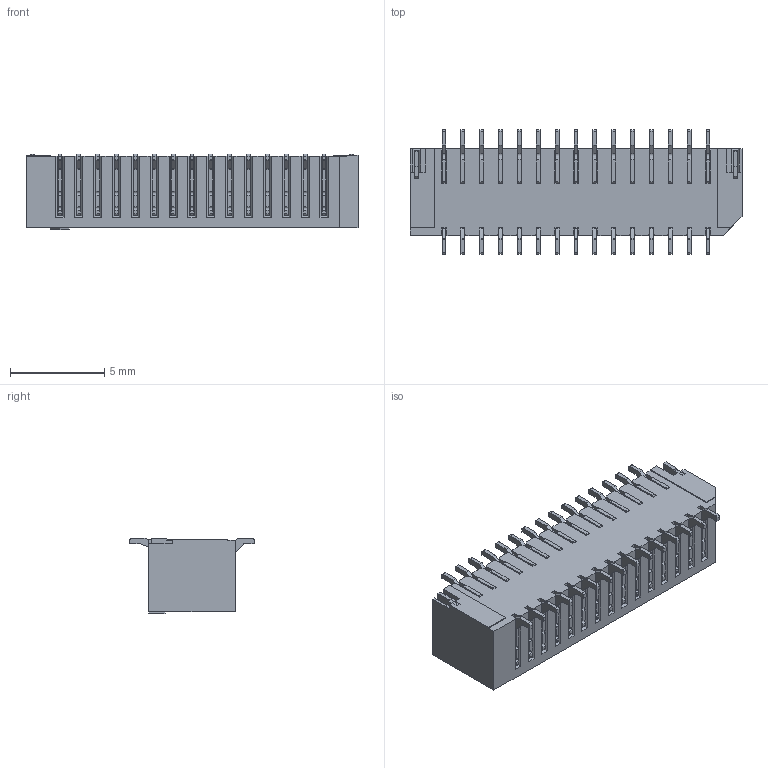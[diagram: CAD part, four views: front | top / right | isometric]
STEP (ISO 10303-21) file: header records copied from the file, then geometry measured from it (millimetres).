
FILE_DESCRIPTION((''),'2;1');
FILE_NAME('30','2009-09-25T',('snow'),(''),'PRO/ENGINEER BY PARAMETRIC TECHNOLOGY CORPORATION, 2007450','PRO/ENGINEER BY PARAMETRIC TECHNOLOGY CORPORATION, 2007450','');
FILE_SCHEMA(('CONFIG_CONTROL_DESIGN'));
Length unit declared in the file: millimetre
Products named in the file (1): 30
Bounding box: 17.6 x 6.6 x 4.01 mm (x, y, z)
Volume: 180.6 mm3; surface area: 889.4 mm2
Topology: 1 solids, 1 shells, 2017 faces, 6367 edges, 4158 vertices
Faces by surface type: plane 1514, cylinder 503
Entity records: 70239 total; most frequent: ORIENTED_EDGE 12734, CARTESIAN_POINT 12614, DIRECTION 11413, EDGE_CURVE 6367, VECTOR 5331, LINE 5331, VERTEX_POINT 4158, AXIS2_PLACEMENT_3D 3041
